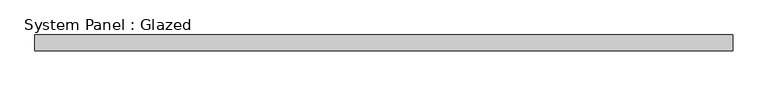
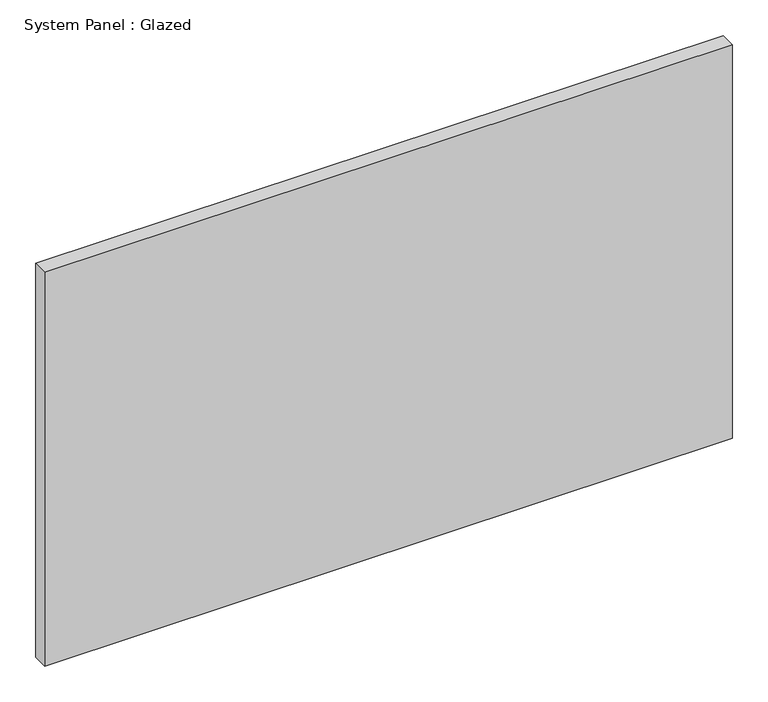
"""IFC4 building model written with IfcOpenShell, lengths in millimetres: plate geometry, System Panel : Glazed."""

from ifc_helpers import new_model, si_unit, origin, origin_with_axes, place, context, project, spatial, polyline, outline, extrude, source, transform, mapped, element, save


def system_panel_glazed_fbf2c7f4(model_context):
    return source(origin(), model_context, "Body", "SweptSolid", [
        extrude(outline(polyline([(558.8, -44.45), (-558.8, -44.45), (-558.8, -19.05), (558.8, -19.05), (558.8, -44.45)])), origin_with_axes(), (0.0, 0.0, 1.0), 676.6977813),
    ])


if __name__ == "__main__":
    model = new_model("IFC4")
    model_context = context("Model", 3, world=origin())
    ifc_project = project(units=[si_unit("LENGTHUNIT", "METRE", prefix="MILLI")], contexts=[model_context])
    site = spatial("IfcSite", under=ifc_project)
    building = spatial("IfcBuilding", under=site)
    placement = place(None, origin())
    system_panel_glazed_shape = system_panel_glazed_fbf2c7f4(model_context)
    element("IfcPlate", 1, ObjectType="System Panel : Glazed", at=placement, inside=building, context=model_context, shape_type="MappedRepresentation", body=[
        mapped(system_panel_glazed_shape, transform((0.0, 0.0, 0.0), x_axis=(1.0, 0.0, 0.0), y_axis=(0.0, 1.0, 0.0), z_axis=(0.0, 0.0, 1.0))),
    ])
    save(model, "model.ifc")
